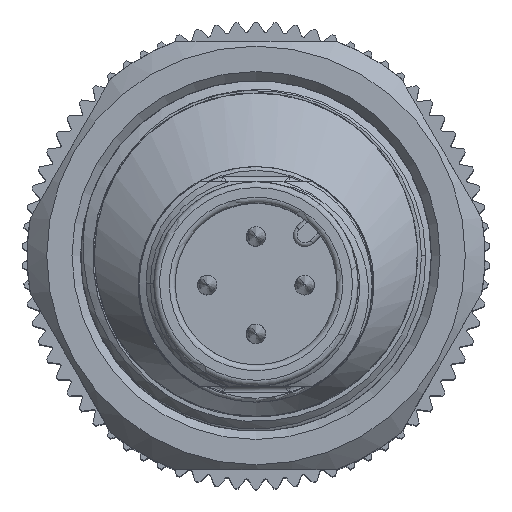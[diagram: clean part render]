
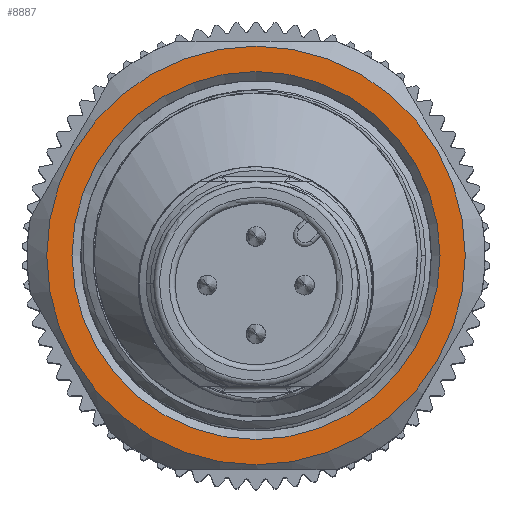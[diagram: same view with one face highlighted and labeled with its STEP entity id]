
A CAD part, top view. The second image highlights one B-rep face of the part: STEP entity #8887.
In plain terms, the highlighted planar face has unit normal (0, 0, 1).
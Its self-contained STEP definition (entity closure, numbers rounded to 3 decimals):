
#8887=ADVANCED_FACE('',(#9863,#9864),#9692,.T.);
#9692=PLANE('',#27257);
#9863=FACE_BOUND('',#10837,.T.);
#9864=FACE_BOUND('',#10838,.T.);
#10837=EDGE_LOOP('',(#16336));
#10838=EDGE_LOOP('',(#16337));
#16336=ORIENTED_EDGE('',*,*,#23498,.T.);
#16337=ORIENTED_EDGE('',*,*,#23203,.T.);
#20079=VERTEX_POINT('',#39156);
#20187=VERTEX_POINT('',#39753);
#23203=EDGE_CURVE('',#20079,#20079,#25346,.T.);
#23498=EDGE_CURVE('',#20187,#20187,#25438,.T.);
#25346=CIRCLE('',#26977,10.75);
#25438=CIRCLE('',#27256,9.45);
#26977=AXIS2_PLACEMENT_3D('',#39157,#31413,#31414);
#27256=AXIS2_PLACEMENT_3D('',#39752,#32172,#32173);
#27257=AXIS2_PLACEMENT_3D('',#39754,#32174,#32175);
#31413=DIRECTION('',(0.,0.,1.));
#31414=DIRECTION('',(1.,0.,0.));
#32172=DIRECTION('',(0.,0.,-1.));
#32173=DIRECTION('',(1.,0.,0.));
#32174=DIRECTION('',(0.,0.,1.));
#32175=DIRECTION('',(0.,-1.,0.));
#39156=CARTESIAN_POINT('',(10.75,0.,-21.9));
#39157=CARTESIAN_POINT('',(0.,0.,
-21.9));
#39752=CARTESIAN_POINT('',(0.,0.,-21.9));
#39753=CARTESIAN_POINT('',(9.45,0.,-21.9));
#39754=CARTESIAN_POINT('',(12.337,-12.338,-21.9));
